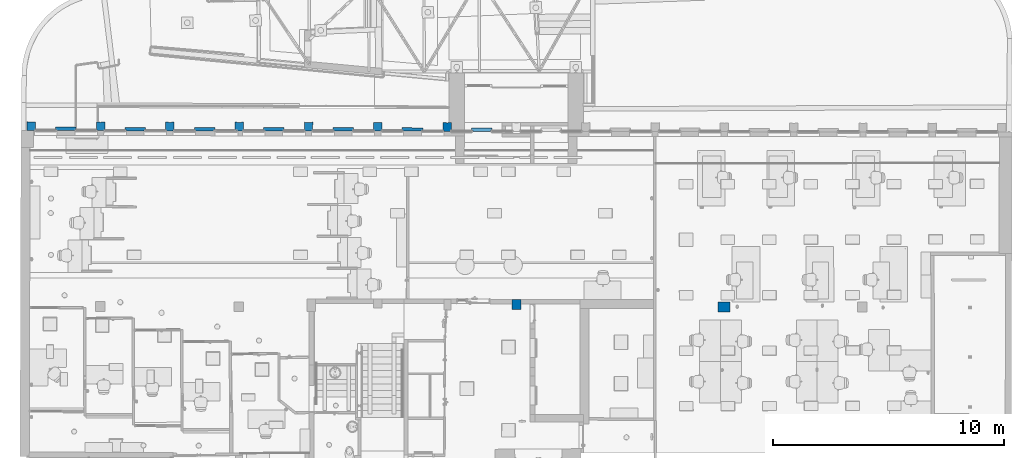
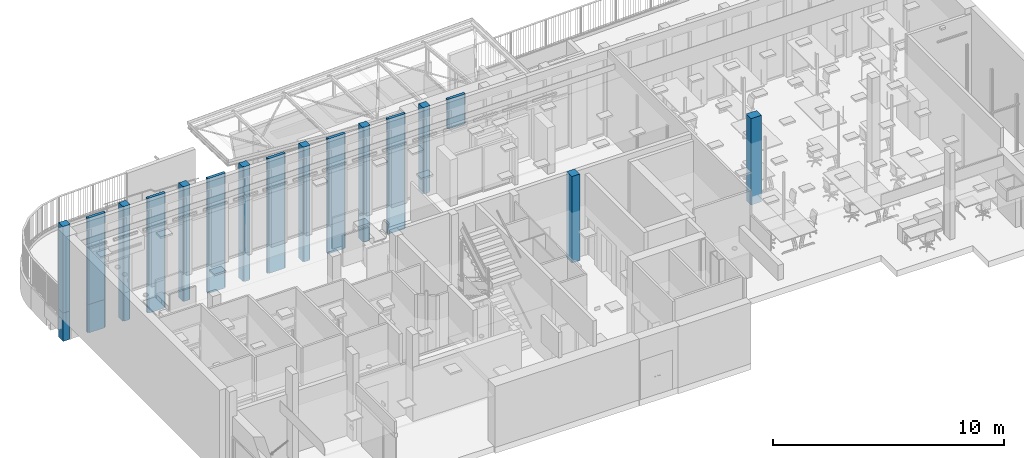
# One storey, part 2 of 128: 28 columns.
"""IFC2X3 building model written with IfcOpenShell, lengths in metres."""

from ifc_helpers import new_model, entity, si_unit, converted_unit, derived_unit, direction, frame, frame_2d, origin, place, context, subcontext, project, spatial, polyline, rectangle, outline, extrude, source, transform, mapped, material, type_object, type_shapes, element, save


model = new_model("IFC2X3")

# Units and contexts
model_context = context("Model", 3, precision=1e-05, world=origin(), true_north=direction((6.123031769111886e-17, 1.0)))
body_context = subcontext(model_context, "Body", "Model", "MODEL_VIEW")
ifc_project = project(units=[si_unit("LENGTHUNIT", "METRE"), si_unit("AREAUNIT", "SQUARE_METRE"), converted_unit("PLANEANGLEUNIT", "DEGREE", entity("IfcPlaneAngleMeasure", 0.017453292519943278), si_unit("PLANEANGLEUNIT", "RADIAN"), dimensions=[0, 0, 0, 0, 0, 0, 0]), derived_unit("THERMALTRANSMITTANCEUNIT", [(si_unit("MASSUNIT", "GRAM", prefix="KILO"), 1), (si_unit("THERMODYNAMICTEMPERATUREUNIT", "KELVIN"), -1), (si_unit("TIMEUNIT", "SECOND"), -3)])], contexts=[model_context])

# Site, building, storey
site_placement = place(None, origin())
site = spatial("IfcSite", under=ifc_project, at=site_placement, Name="Default", CompositionType="ELEMENT")
building_placement = place(site_placement, origin())
building = spatial("IfcBuilding", under=site, at=building_placement, CompositionType="ELEMENT")
storey_placement = place(building_placement, origin())
storey = spatial("IfcBuildingStorey", under=building, at=storey_placement, Name="00_RDC CAF", CompositionType="ELEMENT", Elevation=2.4982504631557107e-13)

# Columns
ifc_material_1 = material(Name="STR - Beton")
column_type_1 = type_object("IfcColumnType", Name="Po_Béton_Creusé _Bord:365mm x 385mm", PredefinedType="COLUMN", material=ifc_material_1)
shared_shape_1 = source(origin(), body_context, "Body", "SweptSolid", [
    extrude(outline(polyline([(-0.2519859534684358, -0.23560265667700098), (0.13176205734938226, -0.23560265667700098), (0.1321396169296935, 0.04915987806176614), (0.13301404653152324, 0.04915871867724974), (0.13301404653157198, 0.08359734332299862), (0.10301404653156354, 0.08359734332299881), (0.10301404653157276, 0.12939734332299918), (-0.251985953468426, 0.12939734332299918), (-0.23198595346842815, -0.053102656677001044), (-0.2519859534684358, -0.23560265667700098)])), frame((6.802635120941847, 144.30148955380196, 0.0), z_axis=(0.0, 0.0, 1.0), x_axis=(-0.0015726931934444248, -0.999998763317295, 0.0)), (0.0, 0.0, 1.0), 4.578000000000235),
])
type_shapes(column_type_1, [shared_shape_1])
column_1_placement = place(storey_placement, origin())
element("IfcColumn", 1, at=column_1_placement, inside=storey, type_object=column_type_1, material=ifc_material_1, Name="Po_Béton_Creusé _Bord:365mm x 385mm", ObjectType="Po_Béton_Creusé _Bord:365mm x 385mm", context=body_context, shape_type="MappedRepresentation", body=[
    mapped(shared_shape_1, transform((0.0, 0.0, 0.0), scale=1.0)),
])
column_type_2 = type_object("IfcColumnType", Name="Po_Béton_Creusé_Courant:365mm x 385mm", PredefinedType="COLUMN", material=ifc_material_1)
shared_shape_2 = source(origin(), body_context, "Body", "SweptSolid", [
    extrude(outline(polyline([(-0.19800810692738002, 0.1181195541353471), (-0.1980081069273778, -0.2368804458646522), (-0.015508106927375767, -0.21688044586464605), (0.06949213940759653, -0.22619554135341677), (0.16699189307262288, -0.2368804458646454), (0.1669918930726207, 0.1181195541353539), (0.12119189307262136, 0.11811955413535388), (0.1211918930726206, 0.14811955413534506), (0.07008082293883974, 0.14811955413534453), (-0.15220810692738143, 0.14811955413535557), (-0.15220810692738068, 0.11811955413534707), (-0.19800810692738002, 0.1181195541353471)])), frame((24.765024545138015, 144.28834571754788, 0.0), z_axis=(0.0, 0.0, -1.0), x_axis=(0.9999987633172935, -0.0015726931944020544, 0.0)), (0.0, 0.0, -1.0), 4.578000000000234),
])
type_shapes(column_type_2, [shared_shape_2])
column_2_placement = place(storey_placement, origin())
element("IfcColumn", 2, at=column_2_placement, inside=storey, type_object=column_type_2, material=ifc_material_1, Name="Po_Béton_Creusé_Courant:365mm x 385mm", ObjectType="Po_Béton_Creusé_Courant:365mm x 385mm", context=body_context, shape_type="MappedRepresentation", body=[
    mapped(shared_shape_2, transform((0.0, 0.0, 0.0), scale=1.0)),
])
column_type_3 = type_object("IfcColumnType", Name="Po_Béton_Creusé_Courant:365mm x 385mm", PredefinedType="COLUMN", material=ifc_material_1)
shared_shape_3 = source(origin(), body_context, "Body", "SweptSolid", [
    extrude(outline(polyline([(-0.18249999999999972, 0.10944444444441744), (-0.18249999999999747, -0.24555555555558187), (0.0, -0.2255555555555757), (0.18250000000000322, -0.24555555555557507), (0.182500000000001, 0.10944444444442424), (0.13670000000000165, 0.10944444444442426), (0.13670000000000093, 0.1394444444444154), (-0.1367000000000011, 0.1394444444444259), (-0.13670000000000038, 0.10944444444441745), (-0.18249999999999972, 0.10944444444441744)])), frame((21.749509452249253, 144.28441308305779, 0.0), z_axis=(0.0, 0.0, -1.0), x_axis=(0.9999987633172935, -0.0015726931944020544, 0.0)), (0.0, 0.0, -1.0), 4.578000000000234),
])
type_shapes(column_type_3, [shared_shape_3])
column_3_placement = place(storey_placement, origin())
element("IfcColumn", 3, at=column_3_placement, inside=storey, type_object=column_type_3, material=ifc_material_1, Name="Po_Béton_Creusé_Courant:365mm x 385mm", ObjectType="Po_Béton_Creusé_Courant:365mm x 385mm", context=body_context, shape_type="MappedRepresentation", body=[
    mapped(shared_shape_3, transform((0.0, 0.0, 0.0), scale=1.0)),
])
column_type_4 = type_object("IfcColumnType", Name="Po_Béton_Creusé_Courant:365mm x 385mm", PredefinedType="COLUMN", material=ifc_material_1)
shared_shape_4 = source(origin(), body_context, "Body", "SweptSolid", [
    extrude(outline(polyline([(-0.18249999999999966, 0.10944444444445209), (-0.18250000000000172, -0.24555555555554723), (0.0, -0.22555555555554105), (0.1824999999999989, -0.24555555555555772), (0.18250000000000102, 0.10944444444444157), (0.13669999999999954, 0.10944444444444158), (0.13670000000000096, 0.13944444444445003), (-0.13669999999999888, 0.13944444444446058), (-0.13670000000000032, 0.1094444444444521), (-0.18249999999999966, 0.10944444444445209)])), frame((18.749516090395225, 144.28913115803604, 0.0), z_axis=(0.0, 0.0, -1.0), x_axis=(0.9999987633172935, -0.0015726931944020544, 0.0)), (0.0, 0.0, -1.0), 4.578000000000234),
])
type_shapes(column_type_4, [shared_shape_4])
column_4_placement = place(storey_placement, origin())
element("IfcColumn", 4, at=column_4_placement, inside=storey, type_object=column_type_4, material=ifc_material_1, Name="Po_Béton_Creusé_Courant:365mm x 385mm", ObjectType="Po_Béton_Creusé_Courant:365mm x 385mm", context=body_context, shape_type="MappedRepresentation", body=[
    mapped(shared_shape_4, transform((0.0, 0.0, 0.0), scale=1.0)),
])
column_type_5 = type_object("IfcColumnType", Name="Po_Béton_Creusé_Courant:365mm x 385mm", PredefinedType="COLUMN", material=ifc_material_1)
shared_shape_5 = source(origin(), body_context, "Body", "SweptSolid", [
    extrude(outline(polyline([(-0.1763374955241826, 0.09550000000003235), (-0.1763374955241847, -0.259499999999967), (0.006162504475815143, -0.23949999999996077), (0.18866250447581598, -0.25949999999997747), (0.18866250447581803, 0.09550000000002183), (0.14286250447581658, 0.09550000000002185), (0.14286250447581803, 0.1255000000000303), (-0.05546254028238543, 0.12550000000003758), (-0.13053749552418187, 0.12550000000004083), (-0.1305374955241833, 0.09550000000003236), (-0.1763374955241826, 0.09550000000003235)])), frame((15.743338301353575, 144.2799144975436, 0.0), z_axis=(0.0, 0.0, -1.0), x_axis=(0.9999987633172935, -0.0015726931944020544, 0.0)), (0.0, 0.0, -1.0), 4.578000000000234),
])
type_shapes(column_type_5, [shared_shape_5])
column_5_placement = place(storey_placement, origin())
element("IfcColumn", 5, at=column_5_placement, inside=storey, type_object=column_type_5, material=ifc_material_1, Name="Po_Béton_Creusé_Courant:365mm x 385mm", ObjectType="Po_Béton_Creusé_Courant:365mm x 385mm", context=body_context, shape_type="MappedRepresentation", body=[
    mapped(shared_shape_5, transform((0.0, 0.0, 0.0), scale=1.0)),
])
column_type_6 = type_object("IfcColumnType", Name="Po_Béton_Creusé_Courant:365mm x 385mm", PredefinedType="COLUMN", material=ifc_material_1)
shared_shape_6 = source(origin(), body_context, "Body", "SweptSolid", [
    extrude(outline(polyline([(-0.18250000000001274, 0.10944444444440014), (-0.18249999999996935, -0.24555555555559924), (0.0, -0.22555555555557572), (0.18250000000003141, -0.24555555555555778), (0.18249999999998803, 0.10944444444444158), (0.13669999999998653, 0.1094444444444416), (0.13669999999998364, 0.13944444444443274), (-0.1367000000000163, 0.13944444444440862), (-0.1367000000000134, 0.10944444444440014), (-0.18250000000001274, 0.10944444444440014)])), frame((12.749529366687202, 144.2985673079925, 0.0), z_axis=(0.0, 0.0, -1.0), x_axis=(0.9999987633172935, -0.0015726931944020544, 0.0)), (0.0, 0.0, -1.0), 4.578000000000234),
])
type_shapes(column_type_6, [shared_shape_6])
column_6_placement = place(storey_placement, origin())
element("IfcColumn", 6, at=column_6_placement, inside=storey, type_object=column_type_6, material=ifc_material_1, Name="Po_Béton_Creusé_Courant:365mm x 385mm", ObjectType="Po_Béton_Creusé_Courant:365mm x 385mm", context=body_context, shape_type="MappedRepresentation", body=[
    mapped(shared_shape_6, transform((0.0, 0.0, 0.0), scale=1.0)),
])
column_type_7 = type_object("IfcColumnType", Name="Po_Béton_Creusé_Courant:365mm x 385mm", PredefinedType="COLUMN", material=ifc_material_1)
shared_shape_7 = source(origin(), body_context, "Body", "SweptSolid", [
    extrude(outline(polyline([(-0.1824999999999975, 0.10944444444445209), (-0.18249999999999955, -0.24555555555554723), (0.0, -0.22555555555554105), (0.1825, -0.24555555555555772), (0.1825000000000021, 0.10944444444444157), (0.1367000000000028, 0.10944444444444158), (0.13670000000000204, 0.13944444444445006), (-0.1366999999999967, 0.13944444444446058), (-0.13669999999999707, 0.10944444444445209), (-0.1824999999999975, 0.10944444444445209)])), frame((9.749536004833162, 144.30328538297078, 0.0), z_axis=(0.0, 0.0, -1.0), x_axis=(0.9999987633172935, -0.0015726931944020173, 0.0)), (0.0, 0.0, -1.0), 4.578000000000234),
])
type_shapes(column_type_7, [shared_shape_7])
column_7_placement = place(storey_placement, origin())
element("IfcColumn", 7, at=column_7_placement, inside=storey, type_object=column_type_7, material=ifc_material_1, Name="Po_Béton_Creusé_Courant:365mm x 385mm", ObjectType="Po_Béton_Creusé_Courant:365mm x 385mm", context=body_context, shape_type="MappedRepresentation", body=[
    mapped(shared_shape_7, transform((0.0, 0.0, 0.0), scale=1.0)),
])
ifc_material_2 = material(Name="<Unnamed>")
column_type_8 = type_object("IfcColumnType", Name="Po_Béton_T:365mm x 385mm", PredefinedType="COLUMN", material=ifc_material_2)
shared_shape_8 = source(origin(), body_context, "Body", "SweptSolid", [
    extrude(outline(polyline([(-0.444999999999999, 0.022500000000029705), (-0.4450000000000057, -0.09749999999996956), (0.444999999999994, -0.0975000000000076), (0.4450000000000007, 0.022499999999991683), (0.38320000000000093, 0.022499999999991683), (0.38320000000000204, 0.052499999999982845), (-0.38319999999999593, 0.052500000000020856), (-0.3831999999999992, 0.022500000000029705), (-0.444999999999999, 0.022500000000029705)])), frame((11.24923135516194, 144.21398226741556, 0.0), z_axis=(0.0, 0.0, -1.0), x_axis=(0.9999987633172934, -0.001572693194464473, 0.0)), (0.0, 0.0, -1.0), 4.578000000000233),
])
type_shapes(column_type_8, [shared_shape_8])
column_8_placement = place(storey_placement, origin())
element("IfcColumn", 8, at=column_8_placement, inside=storey, type_object=column_type_8, material=ifc_material_2, Name="Po_Béton_T:365mm x 385mm", ObjectType="Po_Béton_T:365mm x 385mm", context=body_context, shape_type="MappedRepresentation", body=[
    mapped(shared_shape_8, transform((0.0, 0.0, 0.0), scale=1.0)),
])
column_type_9 = type_object("IfcColumnType", Name="Po_Béton_T:365mm x 385mm", PredefinedType="COLUMN", material=ifc_material_2)
shared_shape_9 = source(origin(), body_context, "Body", "SweptSolid", [
    extrude(outline(polyline([(-0.44499999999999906, 0.02249999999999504), (-0.4450000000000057, -0.09750000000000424), (0.44499999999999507, -0.09750000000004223), (0.4450000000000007, 0.022499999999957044), (0.3832000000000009, 0.022499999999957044), (0.38320000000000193, 0.0524999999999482), (-0.383199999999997, 0.0524999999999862), (-0.38319999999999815, 0.02249999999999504), (-0.44499999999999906, 0.02249999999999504)])), frame((8.249278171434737, 144.21870027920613, 0.0), z_axis=(0.0, 0.0, -1.0), x_axis=(0.9999987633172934, -0.0015726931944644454, 0.0)), (0.0, 0.0, -1.0), 4.578000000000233),
])
type_shapes(column_type_9, [shared_shape_9])
column_9_placement = place(storey_placement, origin())
element("IfcColumn", 9, at=column_9_placement, inside=storey, type_object=column_type_9, material=ifc_material_2, Name="Po_Béton_T:365mm x 385mm", ObjectType="Po_Béton_T:365mm x 385mm", context=body_context, shape_type="MappedRepresentation", body=[
    mapped(shared_shape_9, transform((0.0, 0.0, 0.0), scale=1.0)),
])
column_type_10 = type_object("IfcColumnType", Name="Po_Béton_T:365mm x 385mm", PredefinedType="COLUMN", material=ifc_material_2)
shared_shape_10 = source(origin(), body_context, "Body", "SweptSolid", [
    extrude(outline(polyline([(-0.44499999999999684, 0.0225000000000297), (-0.44500000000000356, -0.09749999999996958), (0.4449999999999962, -0.0975000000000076), (0.44500000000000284, 0.022499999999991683), (0.3832000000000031, 0.02249999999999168), (0.3832000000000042, 0.05249999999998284), (-0.38319999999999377, 0.05250000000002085), (-0.383199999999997, 0.0225000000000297), (-0.44499999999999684, 0.0225000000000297)])), frame((14.249264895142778, 144.20926412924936, 0.0), z_axis=(0.0, 0.0, -1.0), x_axis=(0.9999987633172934, -0.001572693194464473, 0.0)), (0.0, 0.0, -1.0), 4.578000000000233),
])
type_shapes(column_type_10, [shared_shape_10])
column_10_placement = place(storey_placement, origin())
element("IfcColumn", 10, at=column_10_placement, inside=storey, type_object=column_type_10, material=ifc_material_2, Name="Po_Béton_T:365mm x 385mm", ObjectType="Po_Béton_T:365mm x 385mm", context=body_context, shape_type="MappedRepresentation", body=[
    mapped(shared_shape_10, transform((0.0, 0.0, 0.0), scale=1.0)),
])
column_type_11 = type_object("IfcColumnType", Name="Po_Béton_T:365mm x 385mm", PredefinedType="COLUMN", material=ifc_material_2)
shared_shape_11 = source(origin(), body_context, "Body", "SweptSolid", [
    extrude(outline(polyline([(-0.44499999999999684, 0.022500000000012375), (-0.44500000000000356, -0.0974999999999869), (0.4449999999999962, -0.09750000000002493), (0.44500000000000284, 0.022499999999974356), (0.38320000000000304, 0.022499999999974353), (0.3832000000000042, 0.05249999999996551), (-0.38319999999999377, 0.05250000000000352), (-0.383199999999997, 0.022500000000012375), (-0.44499999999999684, 0.022500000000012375)])), frame((17.249258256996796, 144.20454605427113, 0.0), z_axis=(0.0, 0.0, -1.0), x_axis=(0.9999987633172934, -0.001572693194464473, 0.0)), (0.0, 0.0, -1.0), 4.578000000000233),
])
type_shapes(column_type_11, [shared_shape_11])
column_11_placement = place(storey_placement, origin())
element("IfcColumn", 11, at=column_11_placement, inside=storey, type_object=column_type_11, material=ifc_material_2, Name="Po_Béton_T:365mm x 385mm", ObjectType="Po_Béton_T:365mm x 385mm", context=body_context, shape_type="MappedRepresentation", body=[
    mapped(shared_shape_11, transform((0.0, 0.0, 0.0), scale=1.0)),
])
column_type_12 = type_object("IfcColumnType", Name="Po_Béton_T:365mm x 385mm", PredefinedType="COLUMN", material=ifc_material_2)
shared_shape_12 = source(origin(), body_context, "Body", "SweptSolid", [
    extrude(outline(polyline([(-0.4449999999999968, 0.022500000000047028), (-0.4450000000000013, -0.09749999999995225), (0.44499999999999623, -0.09749999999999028), (0.4450000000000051, 0.022500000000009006), (0.38320000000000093, 0.02250000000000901), (0.38320000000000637, 0.052500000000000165), (-0.3831999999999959, 0.05250000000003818), (-0.383199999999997, 0.022500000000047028), (-0.4449999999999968, 0.022500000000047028)])), frame((20.249251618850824, 144.1998279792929, 0.0), z_axis=(0.0, 0.0, -1.0), x_axis=(0.9999987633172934, -0.001572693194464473, 0.0)), (0.0, 0.0, -1.0), 4.578000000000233),
])
type_shapes(column_type_12, [shared_shape_12])
column_12_placement = place(storey_placement, origin())
element("IfcColumn", 12, at=column_12_placement, inside=storey, type_object=column_type_12, material=ifc_material_2, Name="Po_Béton_T:365mm x 385mm", ObjectType="Po_Béton_T:365mm x 385mm", context=body_context, shape_type="MappedRepresentation", body=[
    mapped(shared_shape_12, transform((0.0, 0.0, 0.0), scale=1.0)),
])
column_type_13 = type_object("IfcColumnType", Name="Po_Béton_T:365mm x 385mm", PredefinedType="COLUMN", material=ifc_material_2)
shared_shape_13 = source(origin(), body_context, "Body", "SweptSolid", [
    extrude(outline(polyline([(-0.44499999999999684, 0.022500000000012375), (-0.4450000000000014, -0.0974999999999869), (0.4449999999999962, -0.09750000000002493), (0.445000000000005, 0.022499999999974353), (0.3832000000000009, 0.022499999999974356), (0.38320000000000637, 0.05249999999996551), (-0.38319999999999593, 0.05250000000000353), (-0.383199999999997, 0.022500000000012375), (-0.44499999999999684, 0.022500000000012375)])), frame((23.24924498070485, 144.19510990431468, 0.0), z_axis=(0.0, 0.0, -1.0), x_axis=(0.9999987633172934, -0.001572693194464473, 0.0)), (0.0, 0.0, -1.0), 4.578000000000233),
])
type_shapes(column_type_13, [shared_shape_13])
column_13_placement = place(storey_placement, origin())
element("IfcColumn", 13, at=column_13_placement, inside=storey, type_object=column_type_13, material=ifc_material_2, Name="Po_Béton_T:365mm x 385mm", ObjectType="Po_Béton_T:365mm x 385mm", context=body_context, shape_type="MappedRepresentation", body=[
    mapped(shared_shape_13, transform((0.0, 0.0, 0.0), scale=1.0)),
])
column_type_14 = type_object("IfcColumnType", Name="Po_Beton_Rectangulaire:Po_Beton_Rectangulaire_520x420mm", PredefinedType="COLUMN", material=ifc_material_1)
shared_shape_14 = source(origin(), body_context, "Body", "SweptSolid", [
    extrude(rectangle(XDim=0.4200000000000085, YDim=0.5199999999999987, at=frame_2d((0.0, -2.192690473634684e-15), x_axis=(1.0, 0.0))), frame((36.7295597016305, 136.53248300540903, 0.0), z_axis=(0.0, 0.0, 1.0), x_axis=(0.0, -1.0, 0.0)), (0.0, 0.0, 1.0), 4.578000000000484),
])
type_shapes(column_type_14, [shared_shape_14])
column_14_placement = place(storey_placement, origin())
element("IfcColumn", 14, at=column_14_placement, inside=storey, type_object=column_type_14, material=ifc_material_1, Name="Po_Beton_Rectangulaire:Po_Beton_Rectangulaire_520x420mm", ObjectType="Po_Beton_Rectangulaire:Po_Beton_Rectangulaire_520x420mm", context=body_context, shape_type="MappedRepresentation", body=[
    mapped(shared_shape_14, transform((0.0, 0.0, 0.0), scale=1.0)),
])
column_type_15 = type_object("IfcColumnType", Name="Po_Beton_Rectangulaire:Po_Beton_Rectangulaire_450x400mm", PredefinedType="COLUMN", material=ifc_material_1)
shared_shape_15 = source(origin(), body_context, "Body", "SweptSolid", [
    extrude(rectangle(XDim=0.44999999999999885, YDim=0.39999999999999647, at=frame_2d((0.008333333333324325, 8.604228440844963e-16), x_axis=(1.0, 0.0))), frame((27.747597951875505, 136.6488753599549, 0.0), z_axis=(0.0, 0.0, 1.0), x_axis=(-0.0034776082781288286, -0.9999939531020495, 0.0)), (0.0, 0.0, 1.0), 4.5780000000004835),
])
type_shapes(column_type_15, [shared_shape_15])
column_15_placement = place(storey_placement, origin())
element("IfcColumn", 15, at=column_15_placement, inside=storey, type_object=column_type_15, material=ifc_material_1, Name="Po_Beton_Rectangulaire:Po_Beton_Rectangulaire_450x400mm", ObjectType="Po_Beton_Rectangulaire:Po_Beton_Rectangulaire_450x400mm", context=body_context, shape_type="MappedRepresentation", body=[
    mapped(shared_shape_15, transform((0.0, 0.0, 0.0), scale=1.0)),
])
column_type_16 = type_object("IfcColumnType", Name="Po_Béton_T:365mm x 385mm", PredefinedType="COLUMN", material=ifc_material_2)
shared_shape_16 = source(origin(), body_context, "Body", "SweptSolid", [
    extrude(outline(polyline([(-0.4450000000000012, 0.02250000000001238), (-0.4450000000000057, -0.09749999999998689), (0.44499999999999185, -0.09750000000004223), (0.4450000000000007, 0.02249999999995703), (0.38319999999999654, 0.022499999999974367), (0.38320000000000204, 0.05249999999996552), (-0.38320000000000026, 0.05250000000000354), (-0.3832000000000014, 0.02250000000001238), (-0.4450000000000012, 0.02250000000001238)])), frame((26.249238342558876, 144.1903918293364, 3.0), z_axis=(0.0, 0.0, -1.0), x_axis=(0.9999987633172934, -0.001572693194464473, 0.0)), (0.0, 0.0, -1.0), 1.577999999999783),
])
type_shapes(column_type_16, [shared_shape_16])
column_16_placement = place(storey_placement, origin())
element("IfcColumn", 16, at=column_16_placement, inside=storey, type_object=column_type_16, material=ifc_material_2, Name="Po_Béton_T:365mm x 385mm", ObjectType="Po_Béton_T:365mm x 385mm", context=body_context, shape_type="MappedRepresentation", body=[
    mapped(shared_shape_16, transform((0.0, 0.0, 0.0), scale=1.0)),
])
column_type_17 = type_object("IfcColumnType", Name="Po_Béton_Creusé _Bord:365mm x 385mm", PredefinedType="COLUMN", material=ifc_material_1)
shared_shape_17 = source(origin(), body_context, "Body", "SweptSolid", [
    extrude(outline(polyline([(-0.2215571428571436, -0.1707142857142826), (0.0976428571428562, -0.1707142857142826), (0.09764285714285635, -0.1407142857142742), (0.1434428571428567, -0.1407142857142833), (0.143442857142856, 0.21428571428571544), (-0.03905714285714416, 0.19428571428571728), (-0.2215571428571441, 0.2142857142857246), (-0.2215571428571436, -0.1707142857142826)])), frame((6.788648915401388, 144.33921183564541, -1.4999999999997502), z_axis=(0.0, 0.0, 1.0), x_axis=(0.999998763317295, -0.0015726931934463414, 0.0)), (0.0, 0.0, 1.0), 1.4999999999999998),
])
type_shapes(column_type_17, [shared_shape_17])
column_17_placement = place(storey_placement, origin())
element("IfcColumn", 17, at=column_17_placement, inside=storey, type_object=column_type_17, material=ifc_material_1, Name="Po_Béton_Creusé _Bord:365mm x 385mm", ObjectType="Po_Béton_Creusé _Bord:365mm x 385mm", context=body_context, shape_type="MappedRepresentation", body=[
    mapped(shared_shape_17, transform((0.0, 0.0, 0.0), scale=1.0)),
])
column_type_18 = type_object("IfcColumnType", Name="Po_Béton_Creusé_Courant:365mm x 385mm", PredefinedType="COLUMN", material=ifc_material_1)
shared_shape_18 = source(origin(), body_context, "Body", "SweptSolid", [
    extrude(outline(polyline([(-0.18249999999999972, 0.10944444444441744), (-0.18249999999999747, -0.24555555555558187), (0.0, -0.2255555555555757), (0.18250000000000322, -0.24555555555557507), (0.182500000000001, 0.10944444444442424), (0.13670000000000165, 0.10944444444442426), (0.13670000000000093, 0.1394444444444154), (-0.1367000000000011, 0.1394444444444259), (-0.13670000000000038, 0.10944444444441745), (-0.18249999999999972, 0.10944444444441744)])), frame((21.749509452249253, 144.28441308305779, -1.4999999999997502), z_axis=(0.0, 0.0, -1.0), x_axis=(0.9999987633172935, -0.0015726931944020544, 0.0)), (0.0, 0.0, -1.0), 1.499999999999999),
])
type_shapes(column_type_18, [shared_shape_18])
column_18_placement = place(storey_placement, origin())
element("IfcColumn", 18, at=column_18_placement, inside=storey, type_object=column_type_18, material=ifc_material_1, Name="Po_Béton_Creusé_Courant:365mm x 385mm", ObjectType="Po_Béton_Creusé_Courant:365mm x 385mm", context=body_context, shape_type="MappedRepresentation", body=[
    mapped(shared_shape_18, transform((0.0, 0.0, 0.0), scale=1.0)),
])
column_type_19 = type_object("IfcColumnType", Name="Po_Béton_Creusé_Courant:365mm x 385mm", PredefinedType="COLUMN", material=ifc_material_1)
shared_shape_19 = source(origin(), body_context, "Body", "SweptSolid", [
    extrude(outline(polyline([(-0.18249999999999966, 0.10944444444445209), (-0.18250000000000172, -0.24555555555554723), (0.0, -0.22555555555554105), (0.1824999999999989, -0.24555555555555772), (0.18250000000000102, 0.10944444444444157), (0.13669999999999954, 0.10944444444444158), (0.13670000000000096, 0.13944444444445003), (-0.13669999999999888, 0.13944444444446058), (-0.13670000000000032, 0.1094444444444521), (-0.18249999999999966, 0.10944444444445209)])), frame((18.749516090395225, 144.28913115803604, -1.4999999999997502), z_axis=(0.0, 0.0, -1.0), x_axis=(0.9999987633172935, -0.0015726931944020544, 0.0)), (0.0, 0.0, -1.0), 1.4999999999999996),
])
type_shapes(column_type_19, [shared_shape_19])
column_19_placement = place(storey_placement, origin())
element("IfcColumn", 19, at=column_19_placement, inside=storey, type_object=column_type_19, material=ifc_material_1, Name="Po_Béton_Creusé_Courant:365mm x 385mm", ObjectType="Po_Béton_Creusé_Courant:365mm x 385mm", context=body_context, shape_type="MappedRepresentation", body=[
    mapped(shared_shape_19, transform((0.0, 0.0, 0.0), scale=1.0)),
])
column_type_20 = type_object("IfcColumnType", Name="Po_Béton_Creusé_Courant:365mm x 385mm", PredefinedType="COLUMN", material=ifc_material_1)
shared_shape_20 = source(origin(), body_context, "Body", "SweptSolid", [
    extrude(outline(polyline([(-0.18249999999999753, 0.10944444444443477), (-0.1824999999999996, -0.24555555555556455), (0.0, -0.22555555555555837), (0.18250000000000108, -0.24555555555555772), (0.18250000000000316, 0.10944444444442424), (0.13670000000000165, 0.10944444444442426), (0.13670000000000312, 0.1394444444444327), (-0.13669999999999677, 0.13944444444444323), (-0.13669999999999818, 0.10944444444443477), (-0.18249999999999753, 0.10944444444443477)])), frame((15.749522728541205, 144.29384923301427, -1.4999999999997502), z_axis=(0.0, 0.0, -1.0), x_axis=(0.9999987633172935, -0.0015726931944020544, 0.0)), (0.0, 0.0, -1.0), 1.4999999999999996),
])
type_shapes(column_type_20, [shared_shape_20])
column_20_placement = place(storey_placement, origin())
element("IfcColumn", 20, at=column_20_placement, inside=storey, type_object=column_type_20, material=ifc_material_1, Name="Po_Béton_Creusé_Courant:365mm x 385mm", ObjectType="Po_Béton_Creusé_Courant:365mm x 385mm", context=body_context, shape_type="MappedRepresentation", body=[
    mapped(shared_shape_20, transform((0.0, 0.0, 0.0), scale=1.0)),
])
column_type_21 = type_object("IfcColumnType", Name="Po_Béton_Creusé_Courant:365mm x 385mm", PredefinedType="COLUMN", material=ifc_material_1)
shared_shape_21 = source(origin(), body_context, "Body", "SweptSolid", [
    extrude(outline(polyline([(-0.18250000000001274, 0.10944444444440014), (-0.18249999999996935, -0.24555555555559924), (0.0, -0.22555555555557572), (0.18250000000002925, -0.24555555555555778), (0.18249999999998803, 0.10944444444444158), (0.13669999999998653, 0.1094444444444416), (0.13669999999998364, 0.13944444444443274), (-0.1367000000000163, 0.13944444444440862), (-0.1367000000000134, 0.10944444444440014), (-0.18250000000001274, 0.10944444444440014)])), frame((12.749529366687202, 144.2985673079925, -1.4999999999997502), z_axis=(0.0, 0.0, -1.0), x_axis=(0.9999987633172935, -0.0015726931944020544, 0.0)), (0.0, 0.0, -1.0), 1.4999999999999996),
])
type_shapes(column_type_21, [shared_shape_21])
column_21_placement = place(storey_placement, origin())
element("IfcColumn", 21, at=column_21_placement, inside=storey, type_object=column_type_21, material=ifc_material_1, Name="Po_Béton_Creusé_Courant:365mm x 385mm", ObjectType="Po_Béton_Creusé_Courant:365mm x 385mm", context=body_context, shape_type="MappedRepresentation", body=[
    mapped(shared_shape_21, transform((0.0, 0.0, 0.0), scale=1.0)),
])
column_type_22 = type_object("IfcColumnType", Name="Po_Béton_Creusé_Courant:365mm x 385mm", PredefinedType="COLUMN", material=ifc_material_1)
shared_shape_22 = source(origin(), body_context, "Body", "SweptSolid", [
    extrude(outline(polyline([(-0.1824999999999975, 0.10944444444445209), (-0.18249999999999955, -0.24555555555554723), (0.0, -0.22555555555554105), (0.1825, -0.24555555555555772), (0.1825000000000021, 0.10944444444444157), (0.1367000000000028, 0.10944444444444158), (0.13670000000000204, 0.13944444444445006), (-0.1366999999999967, 0.13944444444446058), (-0.13669999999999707, 0.10944444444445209), (-0.1824999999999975, 0.10944444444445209)])), frame((9.749536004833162, 144.30328538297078, -1.4999999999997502), z_axis=(0.0, 0.0, -1.0), x_axis=(0.9999987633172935, -0.0015726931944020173, 0.0)), (0.0, 0.0, -1.0), 1.4999999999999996),
])
type_shapes(column_type_22, [shared_shape_22])
column_22_placement = place(storey_placement, origin())
element("IfcColumn", 22, at=column_22_placement, inside=storey, type_object=column_type_22, material=ifc_material_1, Name="Po_Béton_Creusé_Courant:365mm x 385mm", ObjectType="Po_Béton_Creusé_Courant:365mm x 385mm", context=body_context, shape_type="MappedRepresentation", body=[
    mapped(shared_shape_22, transform((0.0, 0.0, 0.0), scale=1.0)),
])
column_type_23 = type_object("IfcColumnType", Name="Po_Béton_T:365mm x 385mm", PredefinedType="COLUMN", material=ifc_material_2)
shared_shape_23 = source(origin(), body_context, "Body", "SweptSolid", [
    extrude(outline(polyline([(-0.444999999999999, 0.022500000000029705), (-0.4450000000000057, -0.09749999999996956), (0.444999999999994, -0.09750000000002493), (0.4450000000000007, 0.022499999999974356), (0.38320000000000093, 0.022499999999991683), (0.38320000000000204, 0.052499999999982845), (-0.38319999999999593, 0.052500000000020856), (-0.3831999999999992, 0.022500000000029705), (-0.444999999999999, 0.022500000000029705)])), frame((11.24923135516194, 144.21398226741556, -1.4999999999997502), z_axis=(0.0, 0.0, -1.0), x_axis=(0.9999987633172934, -0.001572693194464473, 0.0)), (0.0, 0.0, -1.0), 1.4999999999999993),
])
type_shapes(column_type_23, [shared_shape_23])
column_23_placement = place(storey_placement, origin())
element("IfcColumn", 23, at=column_23_placement, inside=storey, type_object=column_type_23, material=ifc_material_2, Name="Po_Béton_T:365mm x 385mm", ObjectType="Po_Béton_T:365mm x 385mm", context=body_context, shape_type="MappedRepresentation", body=[
    mapped(shared_shape_23, transform((0.0, 0.0, 0.0), scale=1.0)),
])
column_type_24 = type_object("IfcColumnType", Name="Po_Béton_T:365mm x 385mm", PredefinedType="COLUMN", material=ifc_material_2)
shared_shape_24 = source(origin(), body_context, "Body", "SweptSolid", [
    extrude(outline(polyline([(-0.444999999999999, 0.022500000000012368), (-0.4450000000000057, -0.0974999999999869), (0.44499999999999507, -0.09750000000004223), (0.4450000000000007, 0.022499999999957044), (0.3832000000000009, 0.02249999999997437), (0.38320000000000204, 0.052499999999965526), (-0.383199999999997, 0.05250000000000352), (-0.3831999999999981, 0.022500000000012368), (-0.444999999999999, 0.022500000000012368)])), frame((8.249278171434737, 144.21870027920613, -1.4999999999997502), z_axis=(0.0, 0.0, -1.0), x_axis=(0.9999987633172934, -0.0015726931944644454, 0.0)), (0.0, 0.0, -1.0), 1.4999999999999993),
])
type_shapes(column_type_24, [shared_shape_24])
column_24_placement = place(storey_placement, origin())
element("IfcColumn", 24, at=column_24_placement, inside=storey, type_object=column_type_24, material=ifc_material_2, Name="Po_Béton_T:365mm x 385mm", ObjectType="Po_Béton_T:365mm x 385mm", context=body_context, shape_type="MappedRepresentation", body=[
    mapped(shared_shape_24, transform((0.0, 0.0, 0.0), scale=1.0)),
])
column_type_25 = type_object("IfcColumnType", Name="Po_Béton_T:365mm x 385mm", PredefinedType="COLUMN", material=ifc_material_2)
shared_shape_25 = source(origin(), body_context, "Body", "SweptSolid", [
    extrude(outline(polyline([(-0.44499999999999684, 0.0225000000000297), (-0.44500000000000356, -0.09749999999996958), (0.4449999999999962, -0.09750000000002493), (0.44500000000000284, 0.022499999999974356), (0.3832000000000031, 0.02249999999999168), (0.3832000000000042, 0.05249999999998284), (-0.38319999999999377, 0.05250000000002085), (-0.383199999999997, 0.0225000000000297), (-0.44499999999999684, 0.0225000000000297)])), frame((14.249264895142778, 144.20926412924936, -1.4999999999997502), z_axis=(0.0, 0.0, -1.0), x_axis=(0.9999987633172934, -0.001572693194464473, 0.0)), (0.0, 0.0, -1.0), 1.4999999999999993),
])
type_shapes(column_type_25, [shared_shape_25])
column_25_placement = place(storey_placement, origin())
element("IfcColumn", 25, at=column_25_placement, inside=storey, type_object=column_type_25, material=ifc_material_2, Name="Po_Béton_T:365mm x 385mm", ObjectType="Po_Béton_T:365mm x 385mm", context=body_context, shape_type="MappedRepresentation", body=[
    mapped(shared_shape_25, transform((0.0, 0.0, 0.0), scale=1.0)),
])
column_type_26 = type_object("IfcColumnType", Name="Po_Béton_T:365mm x 385mm", PredefinedType="COLUMN", material=ifc_material_2)
shared_shape_26 = source(origin(), body_context, "Body", "SweptSolid", [
    extrude(outline(polyline([(-0.44499999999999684, 0.0225000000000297), (-0.44500000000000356, -0.09749999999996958), (0.4449999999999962, -0.09750000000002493), (0.44500000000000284, 0.022499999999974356), (0.3832000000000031, 0.02249999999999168), (0.3832000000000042, 0.05249999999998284), (-0.38319999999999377, 0.05250000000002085), (-0.383199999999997, 0.0225000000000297), (-0.44499999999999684, 0.0225000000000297)])), frame((17.249258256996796, 144.20454605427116, -1.4999999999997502), z_axis=(0.0, 0.0, -1.0), x_axis=(0.9999987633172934, -0.001572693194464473, 0.0)), (0.0, 0.0, -1.0), 1.4999999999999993),
])
type_shapes(column_type_26, [shared_shape_26])
column_26_placement = place(storey_placement, origin())
element("IfcColumn", 26, at=column_26_placement, inside=storey, type_object=column_type_26, material=ifc_material_2, Name="Po_Béton_T:365mm x 385mm", ObjectType="Po_Béton_T:365mm x 385mm", context=body_context, shape_type="MappedRepresentation", body=[
    mapped(shared_shape_26, transform((0.0, 0.0, 0.0), scale=1.0)),
])
column_type_27 = type_object("IfcColumnType", Name="Po_Béton_T:365mm x 385mm", PredefinedType="COLUMN", material=ifc_material_2)
shared_shape_27 = source(origin(), body_context, "Body", "SweptSolid", [
    extrude(outline(polyline([(-0.4449999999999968, 0.022500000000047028), (-0.4450000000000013, -0.09749999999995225), (0.4449999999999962, -0.0975000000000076), (0.445000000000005, 0.02249999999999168), (0.38320000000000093, 0.02250000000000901), (0.38320000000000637, 0.052500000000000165), (-0.3831999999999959, 0.05250000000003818), (-0.383199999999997, 0.022500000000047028), (-0.4449999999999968, 0.022500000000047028)])), frame((20.249251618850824, 144.1998279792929, -1.4999999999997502), z_axis=(0.0, 0.0, -1.0), x_axis=(0.9999987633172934, -0.001572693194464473, 0.0)), (0.0, 0.0, -1.0), 1.4999999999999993),
])
type_shapes(column_type_27, [shared_shape_27])
column_27_placement = place(storey_placement, origin())
element("IfcColumn", 27, at=column_27_placement, inside=storey, type_object=column_type_27, material=ifc_material_2, Name="Po_Béton_T:365mm x 385mm", ObjectType="Po_Béton_T:365mm x 385mm", context=body_context, shape_type="MappedRepresentation", body=[
    mapped(shared_shape_27, transform((0.0, 0.0, 0.0), scale=1.0)),
])
column_type_28 = type_object("IfcColumnType", Name="Po_Béton_T:365mm x 385mm", PredefinedType="COLUMN", material=ifc_material_2)
shared_shape_28 = source(origin(), body_context, "Body", "SweptSolid", [
    extrude(outline(polyline([(-0.44499999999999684, 0.022500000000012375), (-0.4450000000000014, -0.0974999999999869), (0.4449999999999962, -0.09750000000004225), (0.445000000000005, 0.022499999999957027), (0.3832000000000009, 0.022499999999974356), (0.38320000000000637, 0.05249999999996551), (-0.38319999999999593, 0.05250000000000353), (-0.383199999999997, 0.022500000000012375), (-0.44499999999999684, 0.022500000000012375)])), frame((23.24924498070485, 144.19510990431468, -1.4999999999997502), z_axis=(0.0, 0.0, -1.0), x_axis=(0.9999987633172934, -0.001572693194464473, 0.0)), (0.0, 0.0, -1.0), 1.4999999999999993),
])
type_shapes(column_type_28, [shared_shape_28])
column_28_placement = place(storey_placement, origin())
element("IfcColumn", 28, at=column_28_placement, inside=storey, type_object=column_type_28, material=ifc_material_2, Name="Po_Béton_T:365mm x 385mm", ObjectType="Po_Béton_T:365mm x 385mm", context=body_context, shape_type="MappedRepresentation", body=[
    mapped(shared_shape_28, transform((0.0, 0.0, 0.0), scale=1.0)),
])

save(model, "model.ifc")
